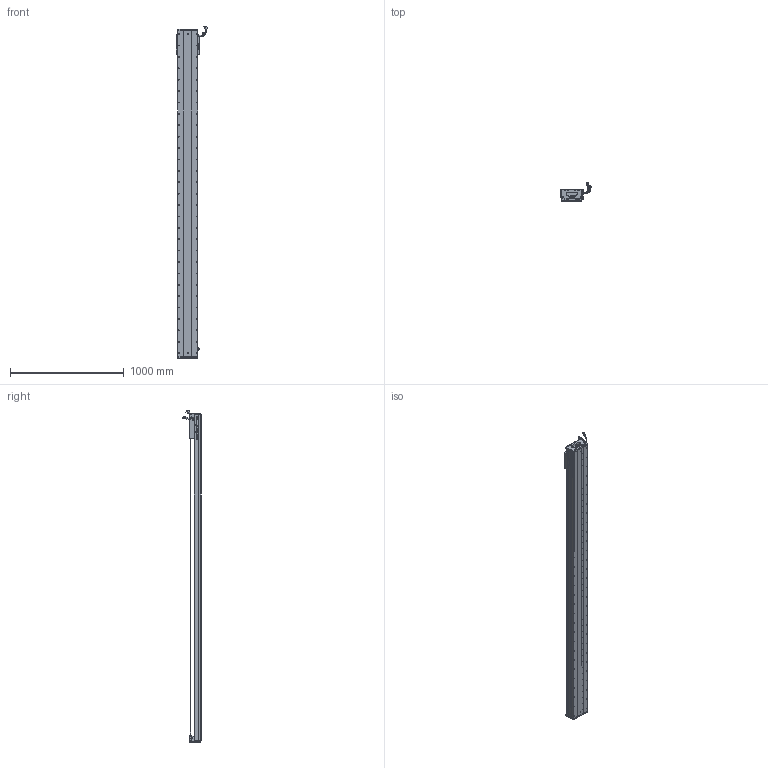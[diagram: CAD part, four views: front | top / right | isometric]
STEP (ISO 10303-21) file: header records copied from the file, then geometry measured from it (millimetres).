
FILE_DESCRIPTION (( 'STEP AP203' ), '1' );
FILE_NAME ('Z2-RY170D-1-L500-B-K.SLDASM_2600.step', '2021-05-17T09:11:27', ( '盈信电脑' ), ( '东莞市道滘镇水果街19号' ), 'SwSTEP 2.0', 'SolidWorks 2016', '' );
FILE_SCHEMA (( 'CONFIG_CONTROL_DESIGN' ));
Length unit declared in the file: millimetre
Products named in the file (36): HARNESS-Part-1; LABEL; Z-RY170詩湍奻揤裔; SCREW-M1.6-1; HARNESS; SCREW-M1.6-3; SCREW-M1.7-1; Z2-RY170臏賑輸(21遴); 榋妏寠巭燃_暯_M2_2; HARNESS-Part-2; Z2-RY170-L500耀郪菁釱_2600; SCREW-M1.6-2; 080黍杅芛假蚾釱21遴; 覜茼ん672; Z2-RY170-L500詩湍145mm遵_2600; COVER-Part-1; SCREW-M1.7; RY170直线电机感应器672光电感应片; SEAL-Part-1; Z2-RY170D-1-L500-B-K.SLDASM_2600; Z-170詩湍傷裔啣; COVER; SCALE-Part-1; 140雄赽晤鎢ん堤盄; LABEL-Part-1; Z-RY170詩湍狟揤裔; SHIELDPLATE; SCREW-M1.6; SCALE; 140蚥薯蝶輸; PSLH080_PSLF2; HOLDER0; SCALE-Part-2; SEAL; 170-Z-臏賑輸盄裔(21遴); PBU_SHEET
Assembly tree (41 placements, depth 4):
  Z2-RY170D-1-L500-B-K.SLDASM_2600
    Z2-RY170-L500耀郪菁釱_2600
    RY170直线电机感应器672光电感应片
    Z2-RY170臏賑輸(21遴)
    覜茼ん672  x3
    PSLH080_PSLF2
      SCALE
        SCALE-Part-1
        SCALE-Part-2
      HARNESS
        HARNESS-Part-1
        HARNESS-Part-2
      LABEL
        LABEL-Part-1
      COVER
        COVER-Part-1
      SEAL
        SEAL-Part-1
      榋妏寠巭燃_暯_M2_2
      SHIELDPLATE
      SCREW-M1.7
      SCREW-M1.7-1
      PBU_SHEET
      SCREW-M1.6
      SCREW-M1.6-1
      SCREW-M1.6-2
      SCREW-M1.6-3
      HOLDER0
    080黍杅芛假蚾釱21遴
    Z2-RY170-L500詩湍145mm遵_2600
    Z-170詩湍傷裔啣  x2
    Z-RY170詩湍奻揤裔  x2
    Z-RY170詩湍狟揤裔  x2
    140蚥薯蝶輸  x2
    170-Z-臏賑輸盄裔(21遴)
    140雄赽晤鎢ん堤盄
Bounding box: 275.29 x 158.11 x 2913.72 mm (x, y, z)
Volume: 14098599 mm3; surface area: 3502094.9 mm2
Topology: 36 solids, 36 shells, 4270 faces, 11921 edges, 7445 vertices
Faces by surface type: cylinder 2188, plane 1348, cone 612, torus 69, bspline 53
Entity records: 136273 total; most frequent: CARTESIAN_POINT 38802, ORIENTED_EDGE 20222, DIRECTION 18631, EDGE_CURVE 10111, AXIS2_PLACEMENT_3D 6872, VERTEX_POINT 6563, VECTOR 4887, LINE 4887
